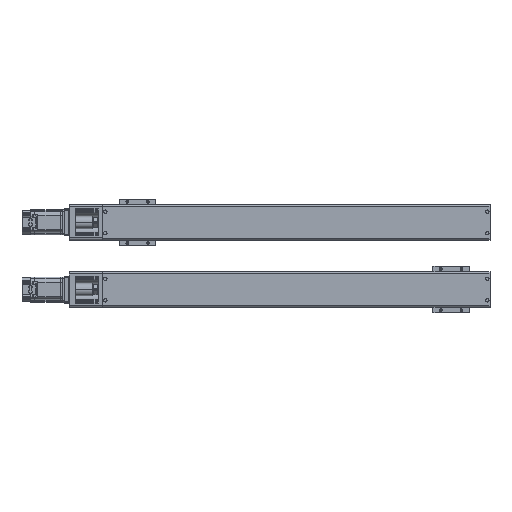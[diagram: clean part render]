
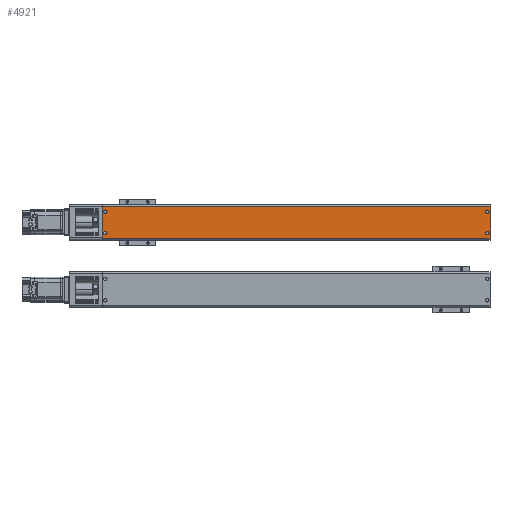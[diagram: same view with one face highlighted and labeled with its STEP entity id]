
A CAD part, top view. The second image highlights one B-rep face of the part: STEP entity #4921.
In plain terms, the highlighted planar face has unit normal (0, 0, 1).
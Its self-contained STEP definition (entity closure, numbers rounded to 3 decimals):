
#4921=ADVANCED_FACE('',(#12506,#12507,#12508,#12509,#12510),#12511,.F.);
#12506=FACE_OUTER_BOUND('',#23608,.T.);
#12507=FACE_BOUND('',#23609,.T.);
#12508=FACE_BOUND('',#23610,.T.);
#12509=FACE_BOUND('',#23611,.T.);
#12510=FACE_BOUND('',#23612,.T.);
#12511=PLANE('',#23613);
#23608=EDGE_LOOP('',(#38982,#38983,#38984,#38985));
#23609=EDGE_LOOP('',(#38986,#38987));
#23610=EDGE_LOOP('',(#38988,#38989));
#23611=EDGE_LOOP('',(#38990,#38991));
#23612=EDGE_LOOP('',(#38992,#38993));
#23613=AXIS2_PLACEMENT_3D('',#38994,#38995,#38996);
#38982=ORIENTED_EDGE('',*,*,#67603,.T.);
#38983=ORIENTED_EDGE('',*,*,#66289,.F.);
#38984=ORIENTED_EDGE('',*,*,#67604,.F.);
#38985=ORIENTED_EDGE('',*,*,#67605,.T.);
#38986=ORIENTED_EDGE('',*,*,#67606,.F.);
#38987=ORIENTED_EDGE('',*,*,#67607,.F.);
#38988=ORIENTED_EDGE('',*,*,#67608,.F.);
#38989=ORIENTED_EDGE('',*,*,#67609,.F.);
#38990=ORIENTED_EDGE('',*,*,#67610,.F.);
#38991=ORIENTED_EDGE('',*,*,#66970,.F.);
#38992=ORIENTED_EDGE('',*,*,#67611,.F.);
#38993=ORIENTED_EDGE('',*,*,#67612,.F.);
#38994=CARTESIAN_POINT('',(852.0,146.0,23.0));
#38995=DIRECTION('',(0.0,0.,-1.0));
#38996=DIRECTION('',(0.0,1.0,0.));
#66289=EDGE_CURVE('',#79671,#79666,#79673,.T.);
#66970=EDGE_CURVE('',#80854,#80856,#80857,.F.);
#67603=EDGE_CURVE('',#81917,#79666,#81918,.T.);
#67604=EDGE_CURVE('',#81919,#79671,#81920,.T.);
#67605=EDGE_CURVE('',#81919,#81917,#81921,.T.);
#67606=EDGE_CURVE('',#81922,#81923,#81924,.F.);
#67607=EDGE_CURVE('',#81923,#81922,#81925,.F.);
#67608=EDGE_CURVE('',#81926,#81927,#81928,.F.);
#67609=EDGE_CURVE('',#81927,#81926,#81929,.F.);
#67610=EDGE_CURVE('',#80856,#80854,#81930,.F.);
#67611=EDGE_CURVE('',#81931,#81932,#81933,.F.);
#67612=EDGE_CURVE('',#81932,#81931,#81934,.F.);
#79666=VERTEX_POINT('',#98807);
#79671=VERTEX_POINT('',#98813);
#79673=LINE('',#98815,#98816);
#80854=VERTEX_POINT('',#100578);
#80856=VERTEX_POINT('',#100581);
#80857=CIRCLE('',#100582,3.8);
#81917=VERTEX_POINT('',#102502);
#81918=LINE('',#102503,#102504);
#81919=VERTEX_POINT('',#102505);
#81920=LINE('',#102506,#102507);
#81921=LINE('',#102508,#102509);
#81922=VERTEX_POINT('',#102510);
#81923=VERTEX_POINT('',#102511);
#81924=CIRCLE('',#102512,3.8);
#81925=CIRCLE('',#102513,3.8);
#81926=VERTEX_POINT('',#102514);
#81927=VERTEX_POINT('',#102515);
#81928=CIRCLE('',#102516,3.8);
#81929=CIRCLE('',#102517,3.8);
#81930=CIRCLE('',#102518,3.8);
#81931=VERTEX_POINT('',#102519);
#81932=VERTEX_POINT('',#102520);
#81933=CIRCLE('',#102521,3.8);
#81934=CIRCLE('',#102522,3.8);
#98807=CARTESIAN_POINT('',(-13.,73.,23.0));
#98813=CARTESIAN_POINT('',(852.0,73.,23.0));
#98815=CARTESIAN_POINT('',(852.0,73.,23.0));
#98816=VECTOR('',#121764,1000.0);
#100578=CARTESIAN_POINT('',(-7.,129.7,23.0));
#100581=CARTESIAN_POINT('',(-7.,137.3,23.0));
#100582=AXIS2_PLACEMENT_3D('',#122623,#122624,#122625);
#102502=CARTESIAN_POINT('',(-13.,146.0,23.0));
#102503=CARTESIAN_POINT('',(-13.,146.0,23.0));
#102504=VECTOR('',#123507,1000.0);
#102505=CARTESIAN_POINT('',(852.0,146.0,23.0));
#102506=CARTESIAN_POINT('',(852.0,146.0,23.0));
#102507=VECTOR('',#123508,1000.0);
#102508=CARTESIAN_POINT('',(852.0,146.0,23.0));
#102509=VECTOR('',#123509,1000.0);
#102510=CARTESIAN_POINT('',(846.0,89.3,23.0));
#102511=CARTESIAN_POINT('',(846.0,81.7,23.0));
#102512=AXIS2_PLACEMENT_3D('',#123510,#123511,#123512);
#102513=AXIS2_PLACEMENT_3D('',#123513,#123514,#123515);
#102514=CARTESIAN_POINT('',(846.0,137.3,23.0));
#102515=CARTESIAN_POINT('',(846.0,129.7,23.0));
#102516=AXIS2_PLACEMENT_3D('',#123516,#123517,#123518);
#102517=AXIS2_PLACEMENT_3D('',#123519,#123520,#123521);
#102518=AXIS2_PLACEMENT_3D('',#123522,#123523,#123524);
#102519=CARTESIAN_POINT('',(-7.,89.3,23.0));
#102520=CARTESIAN_POINT('',(-7.,81.7,23.0));
#102521=AXIS2_PLACEMENT_3D('',#123525,#123526,#123527);
#102522=AXIS2_PLACEMENT_3D('',#123528,#123529,#123530);
#121764=DIRECTION('',(-1.0,0.0,-0.0));
#122623=CARTESIAN_POINT('',(-7.,133.5,23.0));
#122624=DIRECTION('',(0.0,0.,-1.0));
#122625=DIRECTION('',(0.0,1.0,0.));
#123507=DIRECTION('',(0.0,-1.0,0.));
#123508=DIRECTION('',(0.0,-1.0,0.));
#123509=DIRECTION('',(-1.0,0.0,-0.0));
#123510=CARTESIAN_POINT('',(846.0,85.5,23.0));
#123511=DIRECTION('',(0.0,0.,-1.0));
#123512=DIRECTION('',(0.0,1.0,0.));
#123513=CARTESIAN_POINT('',(846.0,85.5,23.0));
#123514=DIRECTION('',(0.0,0.,-1.0));
#123515=DIRECTION('',(0.0,1.0,0.));
#123516=CARTESIAN_POINT('',(846.0,133.5,23.0));
#123517=DIRECTION('',(0.0,0.,-1.0));
#123518=DIRECTION('',(0.0,1.0,0.));
#123519=CARTESIAN_POINT('',(846.0,133.5,23.0));
#123520=DIRECTION('',(0.0,0.,-1.0));
#123521=DIRECTION('',(0.0,1.0,0.));
#123522=CARTESIAN_POINT('',(-7.,133.5,23.0));
#123523=DIRECTION('',(0.0,0.,-1.0));
#123524=DIRECTION('',(0.0,1.0,0.));
#123525=CARTESIAN_POINT('',(-7.,85.5,23.0));
#123526=DIRECTION('',(0.0,0.,-1.0));
#123527=DIRECTION('',(0.0,1.0,0.));
#123528=CARTESIAN_POINT('',(-7.,85.5,23.0));
#123529=DIRECTION('',(0.0,0.,-1.0));
#123530=DIRECTION('',(0.0,1.0,0.));
